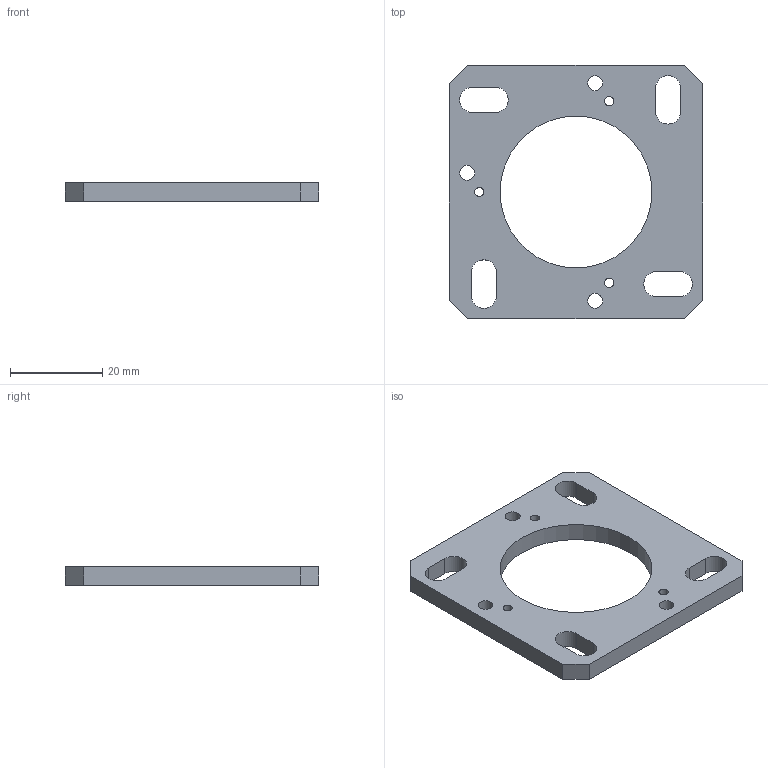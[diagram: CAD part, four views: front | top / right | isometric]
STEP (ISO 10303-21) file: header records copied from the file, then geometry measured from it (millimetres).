
FILE_DESCRIPTION((''),'2;1');
FILE_NAME('K:\Daten\12 Produkte\16 POSIROT\99 Zubehör\121699_Befestigungsplatte PRPT-BPL1_001_B.stp','2008-12-02T10:02:53',('kamp'),(''),'Autodesk Inventor 2008','Autodesk Inventor 2008','');
FILE_SCHEMA(('AUTOMOTIVE_DESIGN { 1 0 10303 214 1 1 1 1 }'));
Length unit declared in the file: millimetre
Products named in the file (1): 121699_Befestigungsplatte PRPT-BPL1_001_B
Bounding box: 55 x 55 x 4 mm (x, y, z)
Volume: 7594.1 mm3; surface area: 5688.3 mm2
Topology: 1 solids, 1 shells, 33 faces, 100 edges, 69 vertices
Faces by surface type: plane 18, cylinder 8, bspline 7
Entity records: 1203 total; most frequent: CARTESIAN_POINT 301, ORIENTED_EDGE 172, DIRECTION 170, EDGE_CURVE 86, VERTEX_POINT 62, EDGE_LOOP 62, AXIS2_PLACEMENT_3D 57, VECTOR 56
